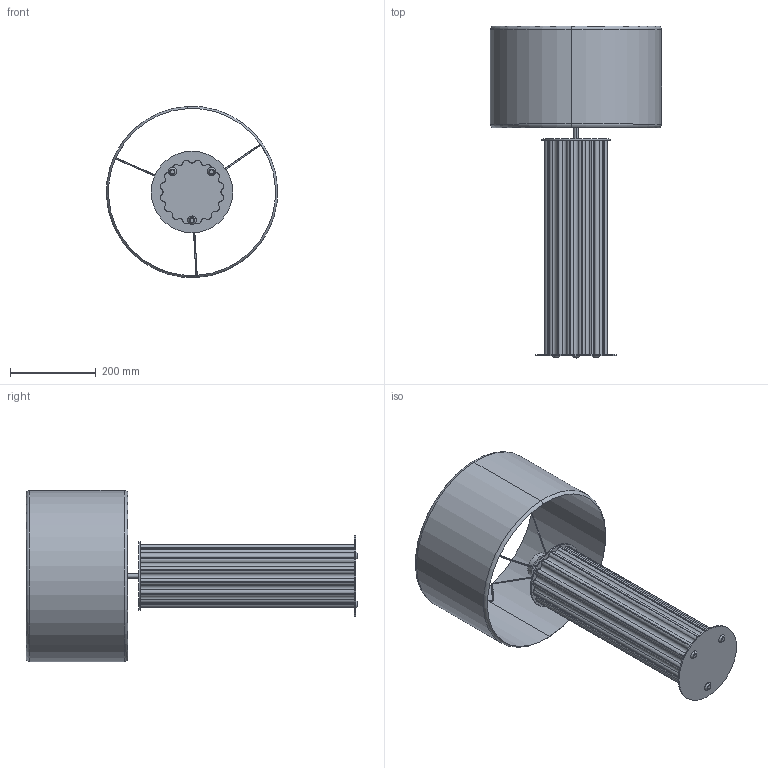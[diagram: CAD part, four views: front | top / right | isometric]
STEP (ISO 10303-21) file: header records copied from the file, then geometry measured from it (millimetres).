
FILE_DESCRIPTION (( 'STEP AP214' ), '1' );
FILE_NAME ('NACU 114.STEP', '2026-06-05T08:02:29', ( '' ), ( '' ), 'SwSTEP 2.0', 'SolidWorks 2023', '' );
FILE_SCHEMA (( 'AUTOMOTIVE_DESIGN' ));
Length unit declared in the file: inch
Products named in the file (1): NACU 114
Bounding box: 399.4 x 774.45 x 399.4 mm (x, y, z)
Volume: 9652063 mm3; surface area: 1009707.1 mm2
Topology: 8 solids, 8 shells, 156 faces, 418 edges, 274 vertices
Faces by surface type: cylinder 89, plane 51, torus 10, cone 6
Entity records: 5096 total; most frequent: DIRECTION 938, CARTESIAN_POINT 885, ORIENTED_EDGE 836, EDGE_CURVE 418, AXIS2_PLACEMENT_3D 375, VERTEX_POINT 274, CIRCLE 218, LINE 188
